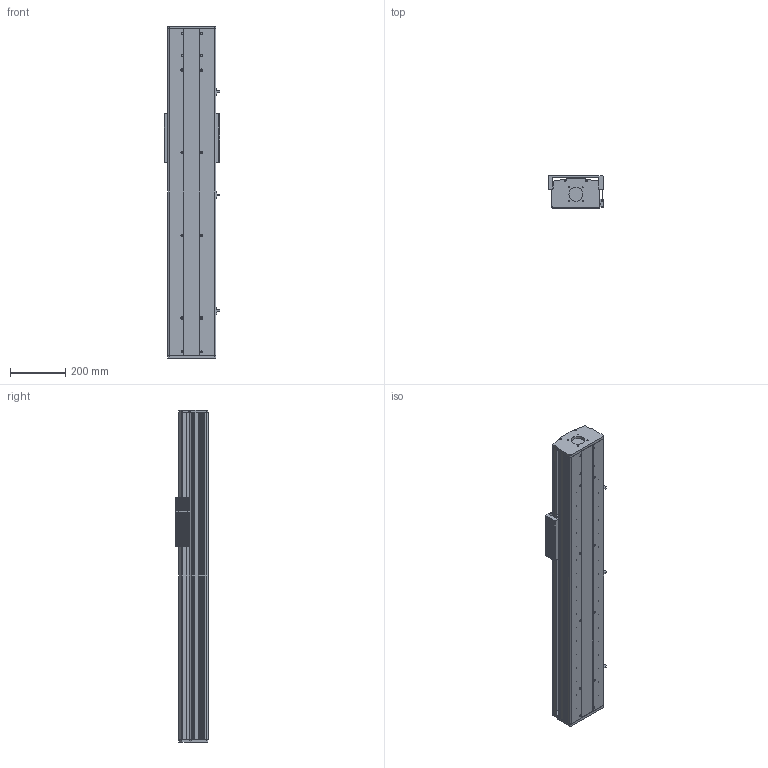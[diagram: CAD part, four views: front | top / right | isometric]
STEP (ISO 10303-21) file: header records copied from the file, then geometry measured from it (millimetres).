
FILE_DESCRIPTION (( 'STEP AP203' ), '1' );
FILE_NAME ('CF175B-C-850-FW.STEP', '2020-07-15T01:54:54', ( 'Micorosoft' ), ( 'Micorosoft' ), 'SwSTEP 2.0', 'SolidWorks 2016', '' );
FILE_SCHEMA (( 'CONFIG_CONTROL_DESIGN' ));
Length unit declared in the file: millimetre
Products named in the file (12): CF-EGH20CA賑輸; 175-2耜啣; 175B珨极嘐隅釱; 175-2盓傅釱; 嫖萇羲壽; CF175-2蹟譫釱; CF175B-C-850-FW; 175B裔啣-850; 175B臏倰第-850; EGR20絳寢-850; CF175-2賑雄啣; 75-86-95癹弇羲壽覜茼え
Assembly tree (17 placements, depth 2):
  CF175B-C-850-FW
    175-2耜啣
    175-2盓傅釱
    CF175-2蹟譫釱
    175B裔啣-850
    175B臏倰第-850
    EGR20絳寢-850  x2
    CF175-2賑雄啣
    75-86-95癹弇羲壽覜茼え
    CF-EGH20CA賑輸  x4
    175B珨极嘐隅釱
    嫖萇羲壽  x3
Bounding box: 201.1 x 116.8 x 1205 mm (x, y, z)
Volume: 9234554.4 mm3; surface area: 2429253.2 mm2
Topology: 23 solids, 23 shells, 1431 faces, 3726 edges, 2476 vertices
Faces by surface type: plane 729, cylinder 696, cone 4, bspline 2
Entity records: 34506 total; most frequent: DIRECTION 5965, CARTESIAN_POINT 5825, ORIENTED_EDGE 5464, EDGE_CURVE 2732, AXIS2_PLACEMENT_3D 2196, VERTEX_POINT 1816, VECTOR 1573, LINE 1573
